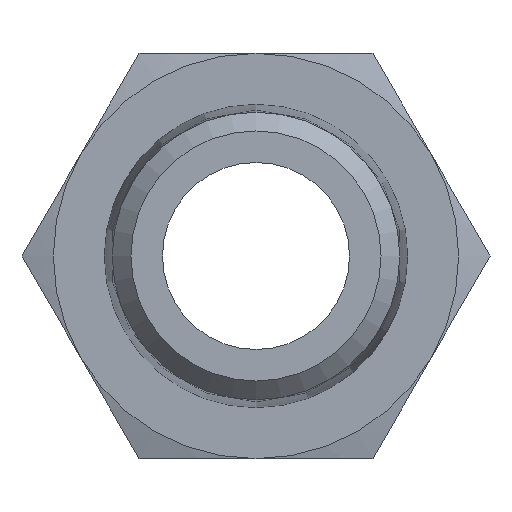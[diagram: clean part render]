
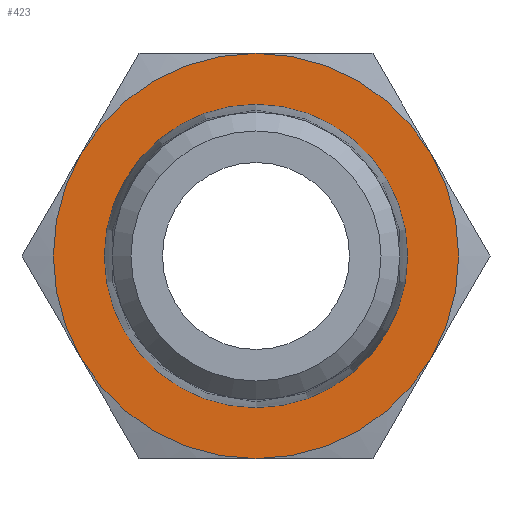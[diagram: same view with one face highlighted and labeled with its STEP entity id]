
A CAD part, left-side view. The second image highlights one B-rep face of the part: STEP entity #423.
In plain terms, the highlighted planar face has unit normal (-1, 0, 0).
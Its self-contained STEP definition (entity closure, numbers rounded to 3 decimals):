
#38=PLANE('',#485);
#47=CIRCLE('',#453,6.5);
#48=CIRCLE('',#455,6.5);
#49=CIRCLE('',#457,6.5);
#50=CIRCLE('',#459,6.5);
#51=CIRCLE('',#461,6.5);
#52=CIRCLE('',#463,6.5);
#63=CIRCLE('',#484,4.864);
#116=ORIENTED_EDGE('',*,*,#186,.F.);
#117=ORIENTED_EDGE('',*,*,#193,.F.);
#118=ORIENTED_EDGE('',*,*,#199,.F.);
#119=ORIENTED_EDGE('',*,*,#195,.F.);
#120=ORIENTED_EDGE('',*,*,#189,.F.);
#121=ORIENTED_EDGE('',*,*,#183,.F.);
#122=ORIENTED_EDGE('',*,*,#222,.T.);
#183=EDGE_CURVE('',#237,#239,#47,.T.);
#186=EDGE_CURVE('',#240,#237,#48,.T.);
#189=EDGE_CURVE('',#239,#243,#49,.T.);
#193=EDGE_CURVE('',#245,#240,#50,.T.);
#195=EDGE_CURVE('',#243,#247,#51,.T.);
#199=EDGE_CURVE('',#247,#245,#52,.T.);
#222=EDGE_CURVE('',#265,#265,#63,.T.);
#237=VERTEX_POINT('',#637);
#239=VERTEX_POINT('',#640);
#240=VERTEX_POINT('',#650);
#243=VERTEX_POINT('',#664);
#245=VERTEX_POINT('',#679);
#247=VERTEX_POINT('',#688);
#265=VERTEX_POINT('',#789);
#318=EDGE_LOOP('',(#116,#117,#118,#119,#120,#121));
#319=EDGE_LOOP('',(#122));
#364=FACE_BOUND('',#318,.T.);
#365=FACE_BOUND('',#319,.T.);
#423=ADVANCED_FACE('',(#364,#365),#38,.F.);
#453=AXIS2_PLACEMENT_3D('',#639,#513,#514);
#455=AXIS2_PLACEMENT_3D('',#652,#517,#518);
#457=AXIS2_PLACEMENT_3D('',#663,#521,#522);
#459=AXIS2_PLACEMENT_3D('',#680,#525,#526);
#461=AXIS2_PLACEMENT_3D('',#687,#529,#530);
#463=AXIS2_PLACEMENT_3D('',#703,#533,#534);
#484=AXIS2_PLACEMENT_3D('',#788,#575,#576);
#485=AXIS2_PLACEMENT_3D('',#790,#577,#578);
#513=DIRECTION('',(1.,0.,0.));
#514=DIRECTION('',(0.,0.,-1.));
#517=DIRECTION('',(1.,0.,0.));
#518=DIRECTION('',(0.,0.,-1.));
#521=DIRECTION('',(1.,0.,0.));
#522=DIRECTION('',(0.,0.,-1.));
#525=DIRECTION('',(1.,0.,0.));
#526=DIRECTION('',(0.,0.,-1.));
#529=DIRECTION('',(1.,0.,0.));
#530=DIRECTION('',(0.,0.,-1.));
#533=DIRECTION('',(1.,0.,0.));
#534=DIRECTION('',(0.,0.,-1.));
#575=DIRECTION('',(1.,0.,0.));
#576=DIRECTION('',(0.,0.,-1.));
#577=DIRECTION('',(1.,0.,0.));
#578=DIRECTION('',(0.,0.,-1.));
#637=CARTESIAN_POINT('',(10.106,5.629,3.25));
#639=CARTESIAN_POINT('',(10.106,0.,0.));
#640=CARTESIAN_POINT('',(10.106,0.,6.5));
#650=CARTESIAN_POINT('',(10.106,5.629,-3.25));
#652=CARTESIAN_POINT('',(10.106,0.,0.));
#663=CARTESIAN_POINT('',(10.106,0.,0.));
#664=CARTESIAN_POINT('',(10.106,-5.629,3.25));
#679=CARTESIAN_POINT('',(10.106,0.,-6.5));
#680=CARTESIAN_POINT('',(10.106,0.,0.));
#687=CARTESIAN_POINT('',(10.106,0.,0.));
#688=CARTESIAN_POINT('',(10.106,-5.629,-3.25));
#703=CARTESIAN_POINT('',(10.106,0.,0.));
#788=CARTESIAN_POINT('',(10.106,0.,0.));
#789=CARTESIAN_POINT('',(10.106,0.,-4.864));
#790=CARTESIAN_POINT('',(10.106,4.864,0.));
